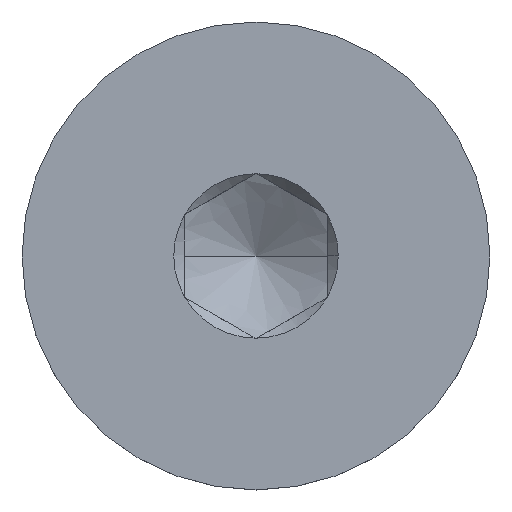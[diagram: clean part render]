
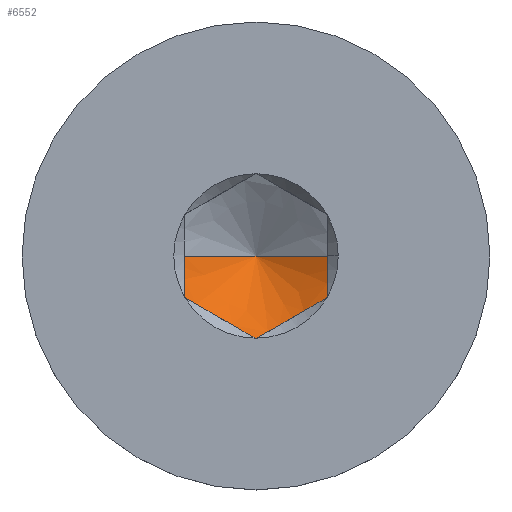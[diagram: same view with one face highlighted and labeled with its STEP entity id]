
A CAD part, top view. The second image highlights one B-rep face of the part: STEP entity #6552.
In plain terms, the highlighted conical face has half-angle 60 degrees and reference radius 1732.05 mm.
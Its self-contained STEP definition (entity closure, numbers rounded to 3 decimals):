
#117 = CARTESIAN_POINT ( 'NONE',  ( -1.5, 0., -1.534 ) ) ;
#283 = ORIENTED_EDGE ( 'NONE', *, *, #5618, .F. ) ;
#350 = CARTESIAN_POINT ( 'NONE',  ( 0., -1.732, -1.4 ) ) ;
#587 = CARTESIAN_POINT ( 'NONE',  ( -1.5, -0.292, -1.521 ) ) ;
#750 = CARTESIAN_POINT ( 'NONE',  ( 1.5, 0., -1.534 ) ) ;
#1063 = VERTEX_POINT ( 'NONE', #5477 ) ;
#1090 = CARTESIAN_POINT ( 'NONE',  ( 1.5, -0.146, -1.534 ) ) ;
#1118 = EDGE_CURVE ( 'NONE', #3035, #6525, #4061, .T. ) ;
#1277 = DIRECTION ( 'NONE',  ( 1., 0., 0. ) ) ;
#2077 = DIRECTION ( 'NONE',  ( 0., 0., 1. ) ) ;
#2319 = CONICAL_SURFACE ( 'NONE', #8146, 1732.051, 1.047 ) ;
#2532 = CARTESIAN_POINT ( 'NONE',  ( 1.006, -1.151, -1.534 ) ) ;
#2630 = CARTESIAN_POINT ( 'NONE',  ( 0.496, -1.445, -1.534 ) ) ;
#2665 = EDGE_CURVE ( 'NONE', #1063, #3035, #8750, .T. ) ;
#2928 = CARTESIAN_POINT ( 'NONE',  ( 0., -1.732, -1.4 ) ) ;
#3035 = VERTEX_POINT ( 'NONE', #750 ) ;
#3114 = CARTESIAN_POINT ( 'NONE',  ( -1.004, -1.153, -1.534 ) ) ;
#3283 = VECTOR ( 'NONE', #6477, 1000. ) ;
#3602 = CARTESIAN_POINT ( 'NONE',  ( -1.5, -0.146, -1.534 ) ) ;
#3972 = B_SPLINE_CURVE_WITH_KNOTS ( 'NONE', 3,
 ( #4690, #9782, #6757, #3114, #9034, #5280 ),
 .UNSPECIFIED., .F., .F.,
 ( 4, 2, 4 ),
 ( 0., 0.001, 0.002 ),
 .UNSPECIFIED. ) ;
#4061 = B_SPLINE_CURVE_WITH_KNOTS ( 'NONE', 3,
 ( #7844, #1090, #8537, #7740, #6996, #8635 ),
 .UNSPECIFIED., .F., .F.,
 ( 4, 2, 4 ),
 ( 0.006, 0.006, 0.006 ),
 .UNSPECIFIED. ) ;
#4216 = VERTEX_POINT ( 'NONE', #4871 ) ;
#4506 = VECTOR ( 'NONE', #8846, 1000. ) ;
#4599 = VERTEX_POINT ( 'NONE', #117 ) ;
#4690 = CARTESIAN_POINT ( 'NONE',  ( 0., -1.732, -1.4 ) ) ;
#4832 = ORIENTED_EDGE ( 'NONE', *, *, #6168, .F. ) ;
#4871 = CARTESIAN_POINT ( 'NONE',  ( -1.5, -0.866, -1.4 ) ) ;
#4942 = CARTESIAN_POINT ( 'NONE',  ( 1.5, -0.866, -1.4 ) ) ;
#4952 = CARTESIAN_POINT ( 'NONE',  ( 0., 0., -2.4 ) ) ;
#4979 = CARTESIAN_POINT ( 'NONE',  ( -1.5, -0.725, -1.441 ) ) ;
#5127 = CARTESIAN_POINT ( 'NONE',  ( -1.5, 0., -1.534 ) ) ;
#5280 = CARTESIAN_POINT ( 'NONE',  ( -1.5, -0.866, -1.4 ) ) ;
#5477 = CARTESIAN_POINT ( 'NONE',  ( 0., 0., -2.4 ) ) ;
#5607 = B_SPLINE_CURVE_WITH_KNOTS ( 'NONE', 3,
 ( #8078, #4979, #9522, #587, #3602, #5127 ),
 .UNSPECIFIED., .F., .F.,
 ( 4, 2, 4 ),
 ( 0.001, 0.002, 0.002 ),
 .UNSPECIFIED. ) ;
#5618 = EDGE_CURVE ( 'NONE', #6525, #8213, #7389, .T. ) ;
#5723 = CARTESIAN_POINT ( 'NONE',  ( 0.245, -1.59, -1.482 ) ) ;
#5819 = CARTESIAN_POINT ( 'NONE',  ( 0., 0., 997.6 ) ) ;
#5981 = LINE ( 'NONE', #9593, #4506 ) ;
#6168 = EDGE_CURVE ( 'NONE', #8213, #4216, #3972, .T. ) ;
#6453 = CARTESIAN_POINT ( 'NONE',  ( 1.5, -0.866, -1.4 ) ) ;
#6477 = DIRECTION ( 'NONE',  ( 0.866, 0., 0.5 ) ) ;
#6525 = VERTEX_POINT ( 'NONE', #6453 ) ;
#6533 = ORIENTED_EDGE ( 'NONE', *, *, #6646, .F. ) ;
#6552 = ADVANCED_FACE ( 'NONE', ( #9579 ), #2319, .F. ) ;
#6646 = EDGE_CURVE ( 'NONE', #4216, #4599, #5607, .T. ) ;
#6757 = CARTESIAN_POINT ( 'NONE',  ( -0.494, -1.447, -1.534 ) ) ;
#6996 = CARTESIAN_POINT ( 'NONE',  ( 1.5, -0.725, -1.441 ) ) ;
#7052 = CARTESIAN_POINT ( 'NONE',  ( 1.255, -1.007, -1.482 ) ) ;
#7389 = B_SPLINE_CURVE_WITH_KNOTS ( 'NONE', 3,
 ( #4942, #7052, #2532, #2630, #5723, #350 ),
 .UNSPECIFIED., .F., .F.,
 ( 4, 2, 4 ),
 ( 0., 0.001, 0.002 ),
 .UNSPECIFIED. ) ;
#7655 = EDGE_LOOP ( 'NONE', ( #8961, #8054, #6533, #4832, #283, #7956 ) ) ;
#7740 = CARTESIAN_POINT ( 'NONE',  ( 1.5, -0.581, -1.475 ) ) ;
#7844 = CARTESIAN_POINT ( 'NONE',  ( 1.5, 0., -1.534 ) ) ;
#7956 = ORIENTED_EDGE ( 'NONE', *, *, #1118, .F. ) ;
#8054 = ORIENTED_EDGE ( 'NONE', *, *, #8095, .T. ) ;
#8078 = CARTESIAN_POINT ( 'NONE',  ( -1.5, -0.866, -1.4 ) ) ;
#8095 = EDGE_CURVE ( 'NONE', #1063, #4599, #5981, .T. ) ;
#8146 = AXIS2_PLACEMENT_3D ( 'NONE', #5819, #2077, #1277 ) ;
#8213 = VERTEX_POINT ( 'NONE', #2928 ) ;
#8537 = CARTESIAN_POINT ( 'NONE',  ( 1.5, -0.292, -1.521 ) ) ;
#8635 = CARTESIAN_POINT ( 'NONE',  ( 1.5, -0.866, -1.4 ) ) ;
#8750 = LINE ( 'NONE', #4952, #3283 ) ;
#8846 = DIRECTION ( 'NONE',  ( -0.866, 0., 0.5 ) ) ;
#8961 = ORIENTED_EDGE ( 'NONE', *, *, #2665, .F. ) ;
#9034 = CARTESIAN_POINT ( 'NONE',  ( -1.255, -1.008, -1.482 ) ) ;
#9522 = CARTESIAN_POINT ( 'NONE',  ( -1.5, -0.581, -1.475 ) ) ;
#9579 = FACE_OUTER_BOUND ( 'NONE', #7655, .T. ) ;
#9593 = CARTESIAN_POINT ( 'NONE',  ( 0., 0., -2.4 ) ) ;
#9782 = CARTESIAN_POINT ( 'NONE',  ( -0.245, -1.591, -1.482 ) ) ;
